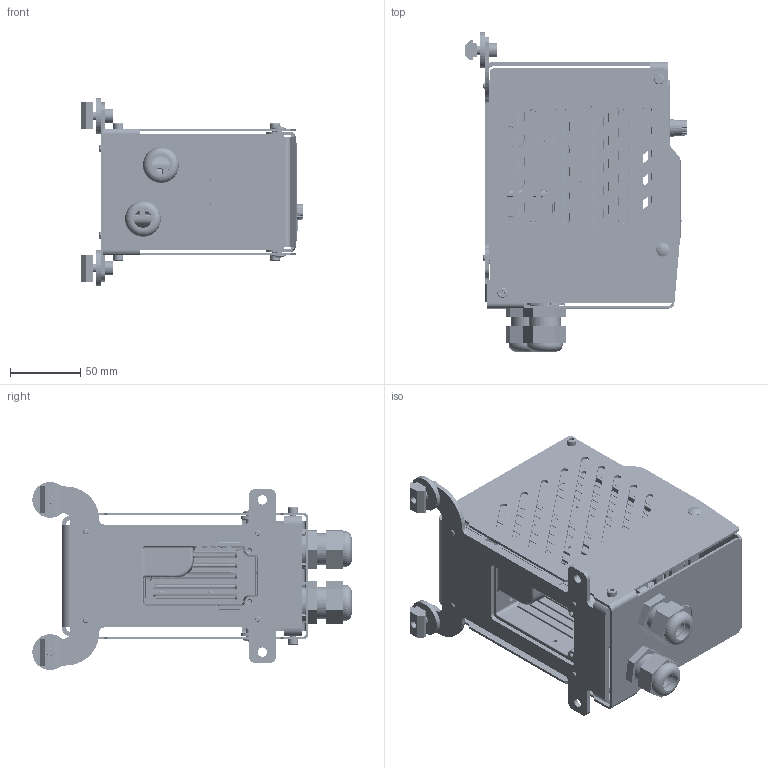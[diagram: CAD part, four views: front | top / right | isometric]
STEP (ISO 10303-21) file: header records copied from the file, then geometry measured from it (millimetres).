
FILE_DESCRIPTION((''),'2;1');
FILE_NAME('209297_ASM','2025-01-17T',('jenni.wallner'),(''),'PRO/ENGINEER BY PARAMETRIC TECHNOLOGY CORPORATION, 2012420','PRO/ENGINEER BY PARAMETRIC TECHNOLOGY CORPORATION, 2012420','');
FILE_SCHEMA(('CONFIG_CONTROL_DESIGN'));
Length unit declared in the file: inch
Products named in the file (13): 824-320; 914-006; 9206XXM_920612M; 209300; 9204XXM_920408M; 805-2734; 911-710_911-710; 824-013_7513K241; 209298; 209299; 639971M; ASM0001_ASM; 209297_ASM
Assembly tree (25 placements, depth 3):
  209297_ASM
    ASM0001_ASM
      824-320  x2
      914-006  x2
      9206XXM_920612M  x2
      209300
      9204XXM_920408M  x8
      805-2734
      911-710_911-710  x2
      824-013_7513K241  x2
      209298
      209299
      639971M  x2
Bounding box: 157.53 x 226.54 x 133.35 mm (x, y, z)
Volume: 199695.2 mm3; surface area: 353254.9 mm2
Topology: 23 solids, 210 shells, 4880 faces, 20887 edges, 15842 vertices
Faces by surface type: plane 2182, cylinder 1597, bspline 649, cone 219, extrusion 107, torus 101, sphere 25
Entity records: 255834 total; most frequent: CARTESIAN_POINT 110501, ORIENTED_EDGE 29848, DIRECTION 22845, EDGE_CURVE 20130, VERTEX_POINT 15408, VECTOR 10447, LINE 10341, B_SPLINE_CURVE_WITH_KNOTS 7569
